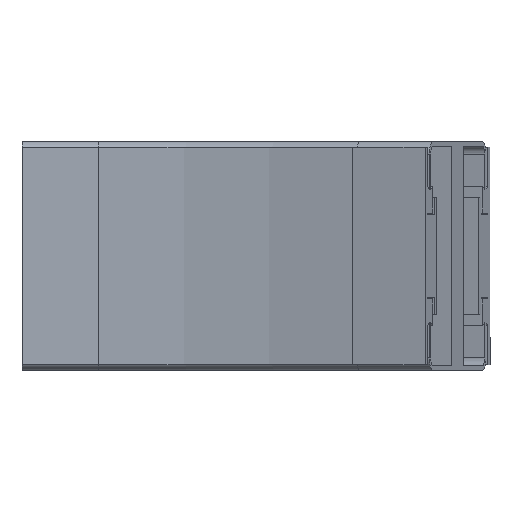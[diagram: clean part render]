
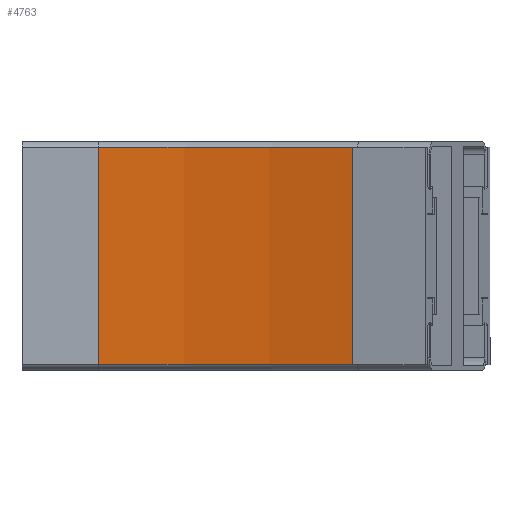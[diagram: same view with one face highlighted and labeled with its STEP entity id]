
A CAD part, front view. The second image highlights one B-rep face of the part: STEP entity #4763.
In plain terms, the highlighted cylindrical face has radius 443.5 mm (diameter 887 mm), a partial arc.
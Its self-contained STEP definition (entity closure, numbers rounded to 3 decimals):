
#325 = DIRECTION ( 'NONE',  ( 1., 0., 0. ) ) ;
#570 = VERTEX_POINT ( 'NONE', #4982 ) ;
#608 = EDGE_LOOP ( 'NONE', ( #2492, #4258, #3712, #3487 ) ) ;
#724 = CARTESIAN_POINT ( 'NONE',  ( 40., -500., 0. ) ) ;
#900 = VERTEX_POINT ( 'NONE', #5198 ) ;
#1020 = EDGE_CURVE ( 'NONE', #570, #1719, #5619, .T. ) ;
#1047 = DIRECTION ( 'NONE',  ( 1., 0., 0. ) ) ;
#1599 = DIRECTION ( 'NONE',  ( 1., 0., 0. ) ) ;
#1614 = LINE ( 'NONE', #4313, #2297 ) ;
#1663 = AXIS2_PLACEMENT_3D ( 'NONE', #724, #3416, #1599 ) ;
#1685 = DIRECTION ( 'NONE',  ( 0., 0., -1. ) ) ;
#1719 = VERTEX_POINT ( 'NONE', #5406 ) ;
#1749 = EDGE_CURVE ( 'NONE', #1988, #900, #1614, .T. ) ;
#1988 = VERTEX_POINT ( 'NONE', #3614 ) ;
#2013 = AXIS2_PLACEMENT_3D ( 'NONE', #2472, #3793, #325 ) ;
#2072 = AXIS2_PLACEMENT_3D ( 'NONE', #2402, #3665, #1047 ) ;
#2161 = EDGE_CURVE ( 'NONE', #570, #900, #5658, .T. ) ;
#2297 = VECTOR ( 'NONE', #1685, 1000. ) ;
#2402 = CARTESIAN_POINT ( 'NONE',  ( 40., -500., -57.15 ) ) ;
#2472 = CARTESIAN_POINT ( 'NONE',  ( 40., -500., 57.15 ) ) ;
#2492 = ORIENTED_EDGE ( 'NONE', *, *, #1749, .T. ) ;
#3348 = VECTOR ( 'NONE', #3533, 1000. ) ;
#3416 = DIRECTION ( 'NONE',  ( 0., 0., 1. ) ) ;
#3467 = CIRCLE ( 'NONE', #2013, 443.5 ) ;
#3487 = ORIENTED_EDGE ( 'NONE', *, *, #4740, .T. ) ;
#3533 = DIRECTION ( 'NONE',  ( 0., 0., 1. ) ) ;
#3614 = CARTESIAN_POINT ( 'NONE',  ( 40., -56.5, 57.15 ) ) ;
#3665 = DIRECTION ( 'NONE',  ( 0., 0., 1. ) ) ;
#3712 = ORIENTED_EDGE ( 'NONE', *, *, #1020, .T. ) ;
#3793 = DIRECTION ( 'NONE',  ( 0., 0., 1. ) ) ;
#3939 = CARTESIAN_POINT ( 'NONE',  ( 173.363, -77.027, -57.15 ) ) ;
#4258 = ORIENTED_EDGE ( 'NONE', *, *, #2161, .F. ) ;
#4313 = CARTESIAN_POINT ( 'NONE',  ( 40., -56.5, 0. ) ) ;
#4740 = EDGE_CURVE ( 'NONE', #1719, #1988, #3467, .T. ) ;
#4763 = ADVANCED_FACE ( 'NONE', ( #5668 ), #4910, .F. ) ;
#4910 = CYLINDRICAL_SURFACE ( 'NONE', #1663, 443.5 ) ;
#4982 = CARTESIAN_POINT ( 'NONE',  ( 173.363, -77.027, -57.15 ) ) ;
#5198 = CARTESIAN_POINT ( 'NONE',  ( 40., -56.5, -57.15 ) ) ;
#5406 = CARTESIAN_POINT ( 'NONE',  ( 173.363, -77.027, 57.15 ) ) ;
#5619 = LINE ( 'NONE', #3939, #3348 ) ;
#5658 = CIRCLE ( 'NONE', #2072, 443.5 ) ;
#5668 = FACE_OUTER_BOUND ( 'NONE', #608, .T. ) ;
